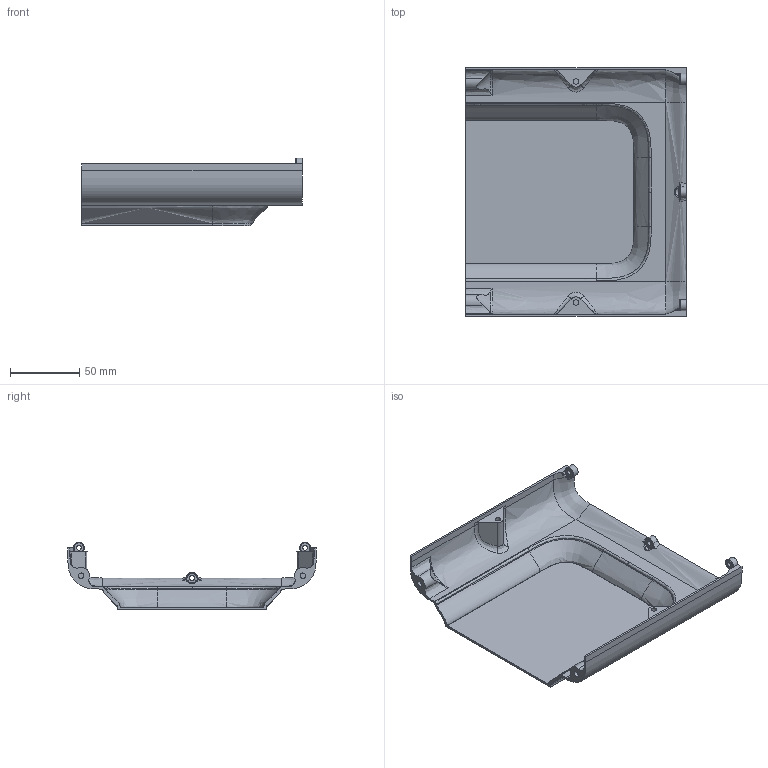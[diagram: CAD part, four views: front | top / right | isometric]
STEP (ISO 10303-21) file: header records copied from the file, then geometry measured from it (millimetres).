
FILE_DESCRIPTION(/* description */ (''),/* implementation_level */ '2;1');
FILE_NAME(/* name */ 'BOTTOM SHELL FRONT.step',/* time_stamp */ '2024-02-28T16:25:55Z',/* author */ (''),/* organization */ (''),/* preprocessor_version */ 'ST-DEVELOPER v20',/* originating_system */ 'Autodesk Translation Framework v12.20.1.177',/* authorisation */ '');
FILE_SCHEMA (('AUTOMOTIVE_DESIGN { 1 0 10303 214 3 1 1 }'));
Length unit declared in the file: millimetre
Products named in the file (1): BOTTOM SHELL FRONT
Bounding box: 160 x 180 x 48.9 mm (x, y, z)
Volume: 85573.5 mm3; surface area: 80706.1 mm2
Topology: 1 solids, 1 shells, 146 faces, 418 edges, 274 vertices
Faces by surface type: bspline 75, plane 44, cylinder 21, torus 6
Full cylindrical faces by diameter (mm): 3.5 x3, 4 x4
Entity records: 10848 total; most frequent: CARTESIAN_POINT 7646, ORIENTED_EDGE 828, EDGE_CURVE 414, DIRECTION 394, VERTEX_POINT 274, B_SPLINE_CURVE_WITH_KNOTS 231, EDGE_LOOP 156, AXIS2_PLACEMENT_3D 149
